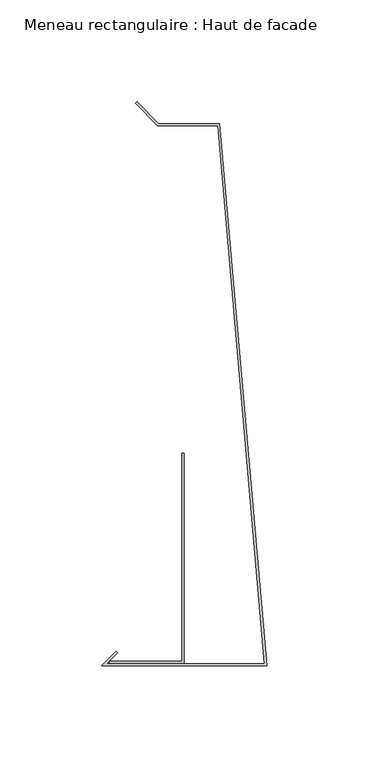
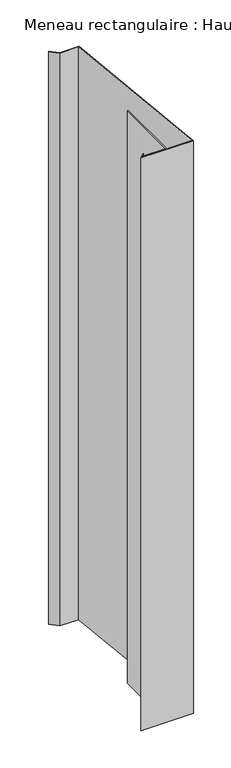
"""IFC4 building model written with IfcOpenShell, lengths in millimetres: member geometry, Meneau rectangulaire : Haut de facade."""

from ifc_helpers import new_model, si_unit, frame, origin, place, context, project, spatial, polyline, outline, extrude, source, transform, mapped, element, save


def meneau_rectangulaire_haut_de_facade_0304e728(model_context):
    return source(origin(), model_context, "Body", "SweptSolid", [
        extrude(outline(polyline([(-24.0647895, 160.703755), (-53.5626719, 160.703755), (-64.4621669, 171.6032499), (-63.7550601, 172.3103567), (-53.1484584, 161.703755), (-23.1484584, 161.703755), (0.0, -104.2), (-81.0, -104.2), (-73.9289322, -97.1289322), (-73.2218254, -97.836039), (-78.5857864, -103.2), (-1.0913085, -103.2), (-24.0647895, 160.703755)])), frame((0.0, 0.0, -932.0), z_axis=(0.0, 0.0, 1.0), x_axis=(1.0, 0.0, 0.0)), (0.0, 0.0, 1.0), 932.0),
        extrude(outline(polyline([(-40.5477541, -102.9846816), (-77.0752814, -102.9846816), (-77.0752814, -101.9846816), (-41.5477541, -101.9846816), (-41.5477541, -0.0384227), (-40.5477541, -0.0384227), (-40.5477541, -102.9846816)])), frame((0.0, 0.0, -932.0), z_axis=(0.0, 0.0, 1.0), x_axis=(1.0, 0.0, 0.0)), (0.0, 0.0, 1.0), 932.0),
    ])


if __name__ == "__main__":
    model = new_model("IFC4")
    model_context = context("Model", 3, world=origin())
    ifc_project = project(units=[si_unit("LENGTHUNIT", "METRE", prefix="MILLI")], contexts=[model_context])
    site = spatial("IfcSite", under=ifc_project)
    building = spatial("IfcBuilding", under=site)
    placement = place(None, origin())
    meneau_rectangulaire_haut_de_facade_shape = meneau_rectangulaire_haut_de_facade_0304e728(model_context)
    element("IfcMember", 1, ObjectType="Meneau rectangulaire : Haut de facade", at=placement, inside=building, context=model_context, shape_type="MappedRepresentation", body=[
        mapped(meneau_rectangulaire_haut_de_facade_shape, transform((0.0, 0.0, 0.0), x_axis=(1.0, 0.0, 0.0), y_axis=(0.0, 1.0, 0.0), z_axis=(0.0, 0.0, 1.0))),
    ])
    save(model, "model.ifc")
